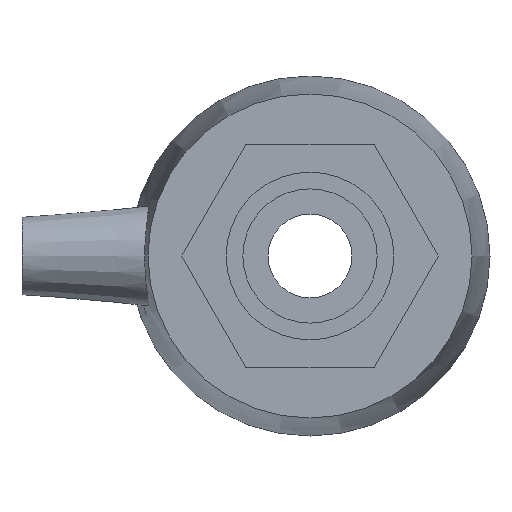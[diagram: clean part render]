
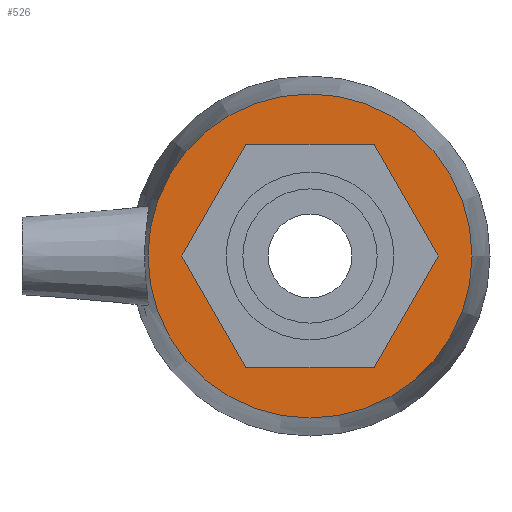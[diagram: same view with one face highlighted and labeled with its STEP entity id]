
A CAD part, left-side view. The second image highlights one B-rep face of the part: STEP entity #526.
In plain terms, the highlighted planar face has unit normal (-1, 0, 0).
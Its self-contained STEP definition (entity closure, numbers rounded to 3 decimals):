
#38=FACE_BOUND('',#159,.T.);
#50=CIRCLE('',#568,29.25);
#70=CIRCLE('',#611,10.602);
#110=FACE_OUTER_BOUND('',#158,.T.);
#158=EDGE_LOOP('',(#465));
#159=EDGE_LOOP('',(#466));
#251=VERTEX_POINT('',#873);
#273=VERTEX_POINT('',#986);
#304=EDGE_CURVE('',#251,#251,#50,.T.);
#337=EDGE_CURVE('',#273,#273,#70,.T.);
#465=ORIENTED_EDGE('',*,*,#304,.F.);
#466=ORIENTED_EDGE('',*,*,#337,.T.);
#491=PLANE('',#612);
#526=ADVANCED_FACE('',(#110,#38),#491,.T.);
#568=AXIS2_PLACEMENT_3D('',#875,#671,#672);
#611=AXIS2_PLACEMENT_3D('',#987,#768,#769);
#612=AXIS2_PLACEMENT_3D('',#989,#771,#772);
#671=DIRECTION('center_axis',(1.,0.,0.));
#672=DIRECTION('ref_axis',(0.,0.,-1.));
#768=DIRECTION('center_axis',(1.,0.,0.));
#769=DIRECTION('ref_axis',(0.,0.,-1.));
#771=DIRECTION('center_axis',(-1.,0.,0.));
#772=DIRECTION('ref_axis',(0.,0.,1.));
#873=CARTESIAN_POINT('',(-50.,-29.25,0.));
#875=CARTESIAN_POINT('Origin',(-50.,0.,0.));
#986=CARTESIAN_POINT('',(-50.,-10.602,0.));
#987=CARTESIAN_POINT('Origin',(-50.,0.,0.));
#989=CARTESIAN_POINT('Origin',(-50.,25.,0.));
